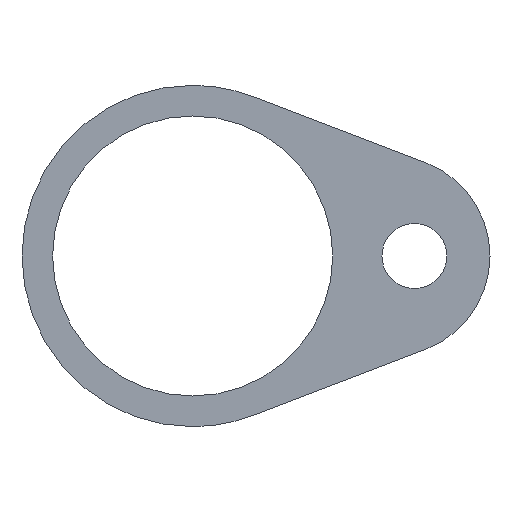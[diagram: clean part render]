
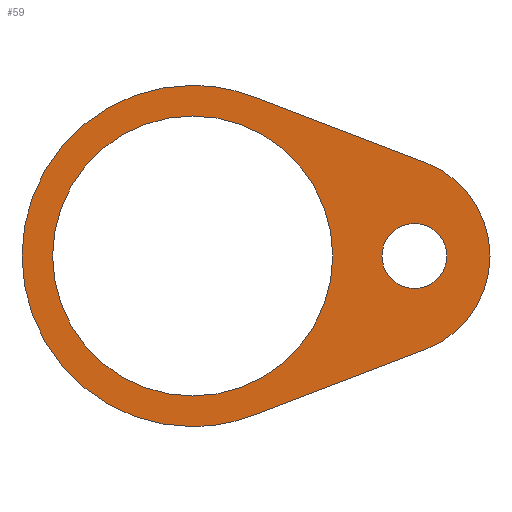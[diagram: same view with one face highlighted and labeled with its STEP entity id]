
A CAD part, front view. The second image highlights one B-rep face of the part: STEP entity #59.
In plain terms, the highlighted planar face has unit normal (0, -1, 0).
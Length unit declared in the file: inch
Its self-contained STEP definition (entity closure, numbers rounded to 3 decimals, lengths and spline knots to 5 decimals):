
#4 = EDGE_LOOP ( 'NONE', ( #52, #49 ) ) ;
#49 = ORIENTED_EDGE ( 'NONE', *, *, #167, .T. ) ;
#51 = ORIENTED_EDGE ( 'NONE', *, *, #166, .F. ) ;
#52 = ORIENTED_EDGE ( 'NONE', *, *, #186, .T. ) ;
#53 = ORIENTED_EDGE ( 'NONE', *, *, #158, .T. ) ;
#57 = ORIENTED_EDGE ( 'NONE', *, *, #164, .T. ) ;
#59 = ADVANCED_FACE ( 'NONE', ( #235, #237, #230 ), #385, .F. ) ;
#83 = ORIENTED_EDGE ( 'NONE', *, *, #178, .F. ) ;
#84 = ORIENTED_EDGE ( 'NONE', *, *, #159, .F. ) ;
#87 = ORIENTED_EDGE ( 'NONE', *, *, #177, .F. ) ;
#90 = ORIENTED_EDGE ( 'NONE', *, *, #182, .F. ) ;
#91 = ORIENTED_EDGE ( 'NONE', *, *, #176, .F. ) ;
#106 = VECTOR ( 'NONE', #263, 39.37008 ) ;
#107 = LINE ( 'NONE', #264, #106 ) ;
#112 = CIRCLE ( 'NONE', #212, 0.625 ) ;
#113 = CIRCLE ( 'NONE', #210, 1.0675 ) ;
#116 = VECTOR ( 'NONE', #280, 39.37008 ) ;
#118 = LINE ( 'NONE', #300, #116 ) ;
#130 = CIRCLE ( 'NONE', #206, 0.203 ) ;
#138 = CIRCLE ( 'NONE', #189, 1.0675 ) ;
#139 = CIRCLE ( 'NONE', #202, 0.87598 ) ;
#141 = CIRCLE ( 'NONE', #216, 0.203 ) ;
#155 = AXIS2_PLACEMENT_3D ( 'NONE', #384, #383, #381 ) ;
#158 = EDGE_CURVE ( 'NONE', #289, #290, #139, .T. ) ;
#159 = EDGE_CURVE ( 'NONE', #391, #395, #138, .T. ) ;
#164 = EDGE_CURVE ( 'NONE', #290, #289, #236, .T. ) ;
#166 = EDGE_CURVE ( 'NONE', #395, #279, #231, .T. ) ;
#167 = EDGE_CURVE ( 'NONE', #307, #313, #130, .T. ) ;
#176 = EDGE_CURVE ( 'NONE', #390, #391, #118, .T. ) ;
#177 = EDGE_CURVE ( 'NONE', #279, #274, #113, .T. ) ;
#178 = EDGE_CURVE ( 'NONE', #389, #390, #112, .T. ) ;
#182 = EDGE_CURVE ( 'NONE', #274, #389, #107, .T. ) ;
#186 = EDGE_CURVE ( 'NONE', #313, #307, #141, .T. ) ;
#189 = AXIS2_PLACEMENT_3D ( 'NONE', #336, #324, #338 ) ;
#202 = AXIS2_PLACEMENT_3D ( 'NONE', #346, #358, #337 ) ;
#204 = AXIS2_PLACEMENT_3D ( 'NONE', #328, #323, #321 ) ;
#205 = AXIS2_PLACEMENT_3D ( 'NONE', #317, #315, #314 ) ;
#206 = AXIS2_PLACEMENT_3D ( 'NONE', #320, #312, #311 ) ;
#210 = AXIS2_PLACEMENT_3D ( 'NONE', #281, #278, #277 ) ;
#212 = AXIS2_PLACEMENT_3D ( 'NONE', #276, #382, #275 ) ;
#216 = AXIS2_PLACEMENT_3D ( 'NONE', #269, #253, #252 ) ;
#230 = FACE_BOUND ( 'NONE', #4, .T. ) ;
#231 = CIRCLE ( 'NONE', #205, 1.0675 ) ;
#235 = FACE_BOUND ( 'NONE', #429, .T. ) ;
#236 = CIRCLE ( 'NONE', #204, 0.87598 ) ;
#237 = FACE_OUTER_BOUND ( 'NONE', #424, .T. ) ;
#242 = CARTESIAN_POINT ( 'NONE',  ( 0., 0., -0.87598 ) ) ;
#245 = CARTESIAN_POINT ( 'NONE',  ( 0.38256, 0., 0.9966 ) ) ;
#248 = CARTESIAN_POINT ( 'NONE',  ( 0., 0., 1.0675 ) ) ;
#249 = CARTESIAN_POINT ( 'NONE',  ( 1.45874, 0., -0.58349 ) ) ;
#252 = DIRECTION ( 'NONE',  ( 0., 0., 1. ) ) ;
#253 = DIRECTION ( 'NONE',  ( 0., 1., 0. ) ) ;
#260 = CARTESIAN_POINT ( 'NONE',  ( 0., 0., 0.87598 ) ) ;
#263 = DIRECTION ( 'NONE',  ( 0.934, 0., -0.358 ) ) ;
#264 = CARTESIAN_POINT ( 'NONE',  ( 0.38256, 0., 0.9966 ) ) ;
#269 = CARTESIAN_POINT ( 'NONE',  ( 1.387, 0., 0. ) ) ;
#274 = VERTEX_POINT ( 'NONE', #245 ) ;
#275 = DIRECTION ( 'NONE',  ( 0., 0., 1. ) ) ;
#276 = CARTESIAN_POINT ( 'NONE',  ( 1.23476, 0., 0. ) ) ;
#277 = DIRECTION ( 'NONE',  ( 0., 0., 1. ) ) ;
#278 = DIRECTION ( 'NONE',  ( 0., 1., 0. ) ) ;
#279 = VERTEX_POINT ( 'NONE', #248 ) ;
#280 = DIRECTION ( 'NONE',  ( -0.934, 0., -0.358 ) ) ;
#281 = CARTESIAN_POINT ( 'NONE',  ( 0., 0., 0. ) ) ;
#289 = VERTEX_POINT ( 'NONE', #242 ) ;
#290 = VERTEX_POINT ( 'NONE', #260 ) ;
#300 = CARTESIAN_POINT ( 'NONE',  ( 0.38256, 0., -0.9966 ) ) ;
#307 = VERTEX_POINT ( 'NONE', #380 ) ;
#311 = DIRECTION ( 'NONE',  ( 0., 0., 1. ) ) ;
#312 = DIRECTION ( 'NONE',  ( 0., 1., 0. ) ) ;
#313 = VERTEX_POINT ( 'NONE', #355 ) ;
#314 = DIRECTION ( 'NONE',  ( 0., 0., 1. ) ) ;
#315 = DIRECTION ( 'NONE',  ( 0., 1., 0. ) ) ;
#317 = CARTESIAN_POINT ( 'NONE',  ( 0., 0., 0. ) ) ;
#320 = CARTESIAN_POINT ( 'NONE',  ( 1.387, 0., 0. ) ) ;
#321 = DIRECTION ( 'NONE',  ( 0., 0., 1. ) ) ;
#323 = DIRECTION ( 'NONE',  ( 0., 1., 0. ) ) ;
#324 = DIRECTION ( 'NONE',  ( 0., 1., 0. ) ) ;
#328 = CARTESIAN_POINT ( 'NONE',  ( 0., 0., 0. ) ) ;
#336 = CARTESIAN_POINT ( 'NONE',  ( 0., 0., 0. ) ) ;
#337 = DIRECTION ( 'NONE',  ( 0., 0., 1. ) ) ;
#338 = DIRECTION ( 'NONE',  ( 0., 0., 1. ) ) ;
#346 = CARTESIAN_POINT ( 'NONE',  ( 0., 0., 0. ) ) ;
#355 = CARTESIAN_POINT ( 'NONE',  ( 1.387, 0., -0.203 ) ) ;
#358 = DIRECTION ( 'NONE',  ( 0., 1., 0. ) ) ;
#379 = CARTESIAN_POINT ( 'NONE',  ( 1.45874, 0., 0.58349 ) ) ;
#380 = CARTESIAN_POINT ( 'NONE',  ( 1.387, 0., 0.203 ) ) ;
#381 = DIRECTION ( 'NONE',  ( 0., 0., 1. ) ) ;
#382 = DIRECTION ( 'NONE',  ( 0., 1., 0. ) ) ;
#383 = DIRECTION ( 'NONE',  ( 0., 1., 0. ) ) ;
#384 = CARTESIAN_POINT ( 'NONE',  ( 0., 0., 0. ) ) ;
#385 = PLANE ( 'NONE',  #155 ) ;
#389 = VERTEX_POINT ( 'NONE', #379 ) ;
#390 = VERTEX_POINT ( 'NONE', #249 ) ;
#391 = VERTEX_POINT ( 'NONE', #397 ) ;
#395 = VERTEX_POINT ( 'NONE', #402 ) ;
#397 = CARTESIAN_POINT ( 'NONE',  ( 0.38256, 0., -0.9966 ) ) ;
#402 = CARTESIAN_POINT ( 'NONE',  ( 0., 0., -1.0675 ) ) ;
#424 = EDGE_LOOP ( 'NONE', ( #84, #91, #83, #90, #87, #51 ) ) ;
#429 = EDGE_LOOP ( 'NONE', ( #53, #57 ) ) ;
